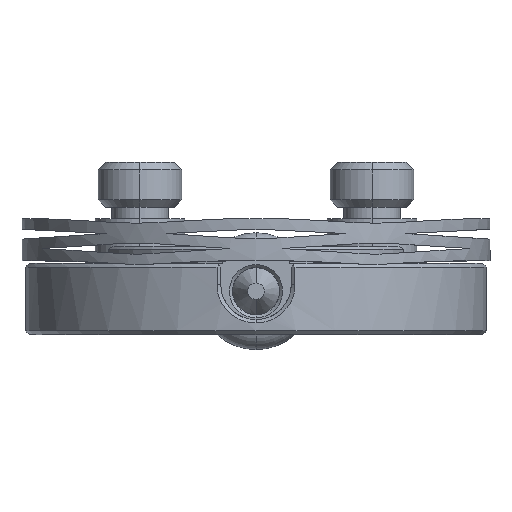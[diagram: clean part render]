
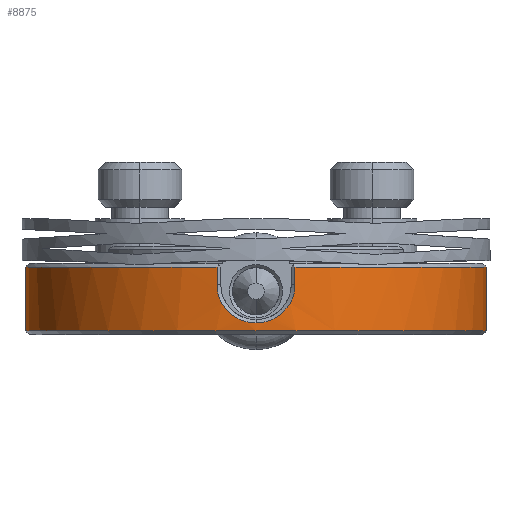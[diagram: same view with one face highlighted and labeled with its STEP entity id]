
A CAD part, front view. The second image highlights one B-rep face of the part: STEP entity #8875.
In plain terms, the highlighted cylindrical face has radius 7.811 mm (diameter 15.621 mm), a partial arc.
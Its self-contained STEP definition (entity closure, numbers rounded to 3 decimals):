
#252 = VECTOR ( 'NONE', #8149, 1000. ) ;
#257 = LINE ( 'NONE', #8141, #252 ) ;
#261 = CIRCLE ( 'NONE', #4143, 7.81 ) ;
#266 = LINE ( 'NONE', #4537, #267 ) ;
#267 = VECTOR ( 'NONE', #4538, 1000. ) ;
#269 = CIRCLE ( 'NONE', #4145, 7.81 ) ;
#473 = LINE ( 'NONE', #5302, #474 ) ;
#474 = VECTOR ( 'NONE', #5303, 1000. ) ;
#478 = VECTOR ( 'NONE', #5333, 1000. ) ;
#485 = LINE ( 'NONE', #5332, #478 ) ;
#583 = FACE_OUTER_BOUND ( 'NONE', #1544, .T. ) ;
#588 = CYLINDRICAL_SURFACE ( 'NONE', #4260, 7.81 ) ;
#1409 = ORIENTED_EDGE ( 'NONE', *, *, #6351, .F. ) ;
#1410 = ORIENTED_EDGE ( 'NONE', *, *, #6120, .T. ) ;
#1411 = ORIENTED_EDGE ( 'NONE', *, *, #6111, .T. ) ;
#1412 = ORIENTED_EDGE ( 'NONE', *, *, #6113, .T. ) ;
#1413 = ORIENTED_EDGE ( 'NONE', *, *, #6117, .T. ) ;
#1414 = ORIENTED_EDGE ( 'NONE', *, *, #6121, .T. ) ;
#1415 = ORIENTED_EDGE ( 'NONE', *, *, #5747, .T. ) ;
#1416 = ORIENTED_EDGE ( 'NONE', *, *, #6341, .T. ) ;
#1417 = ORIENTED_EDGE ( 'NONE', *, *, #6112, .T. ) ;
#1544 = EDGE_LOOP ( 'NONE', ( #1409, #1410, #1411, #1412, #1413, #1414, #1415, #1416, #1417 ) ) ;
#1843 = VERTEX_POINT ( 'NONE', #2283 ) ;
#1844 = VERTEX_POINT ( 'NONE', #2284 ) ;
#1845 = VERTEX_POINT ( 'NONE', #2285 ) ;
#1846 = VERTEX_POINT ( 'NONE', #2286 ) ;
#2192 = VERTEX_POINT ( 'NONE', #3503 ) ;
#2195 = VERTEX_POINT ( 'NONE', #3506 ) ;
#2200 = VERTEX_POINT ( 'NONE', #3511 ) ;
#2210 = VERTEX_POINT ( 'NONE', #3521 ) ;
#2235 = VERTEX_POINT ( 'NONE', #3546 ) ;
#2283 = CARTESIAN_POINT ( 'NONE',  ( 1.323, -7.698, 2.286 ) ) ;
#2284 = CARTESIAN_POINT ( 'NONE',  ( 1.323, -7.698, 1.702 ) ) ;
#2285 = CARTESIAN_POINT ( 'NONE',  ( 0., -7.81, 0.399 ) ) ;
#2286 = CARTESIAN_POINT ( 'NONE',  ( -1.323, -7.698, 1.702 ) ) ;
#2829 = B_SPLINE_CURVE_WITH_KNOTS ( 'NONE', 3,
 ( #8150, #4510, #4511, #4512, #4513, #4514 ),
 .UNSPECIFIED., .F., .F.,
 ( 4, 2, 4 ),
 ( 0., 0.5, 1. ),
 .UNSPECIFIED. ) ;
#2830 = B_SPLINE_CURVE_WITH_KNOTS ( 'NONE', 3,
 ( #4518, #4524, #4525, #4526, #4527, #4528 ),
 .UNSPECIFIED., .F., .F.,
 ( 4, 2, 4 ),
 ( 0., 0.5, 1. ),
 .UNSPECIFIED. ) ;
#3321 = CIRCLE ( 'NONE', #6679, 7.81 ) ;
#3503 = CARTESIAN_POINT ( 'NONE',  ( -7.81, 0., 2.286 ) ) ;
#3506 = CARTESIAN_POINT ( 'NONE',  ( -7.81, 0., 0.127 ) ) ;
#3511 = CARTESIAN_POINT ( 'NONE',  ( -1.323, -7.698, 2.286 ) ) ;
#3521 = CARTESIAN_POINT ( 'NONE',  ( 7.81, 0., 0.127 ) ) ;
#3546 = CARTESIAN_POINT ( 'NONE',  ( 7.81, 0., 2.286 ) ) ;
#4143 = AXIS2_PLACEMENT_3D ( 'NONE', #8148, #7590, #4508 ) ;
#4145 = AXIS2_PLACEMENT_3D ( 'NONE', #4523, #4535, #4536 ) ;
#4260 = AXIS2_PLACEMENT_3D ( 'NONE', #5535, #5534, #5527 ) ;
#4508 = DIRECTION ( 'NONE',  ( -1., 0., 0. ) ) ;
#4510 = CARTESIAN_POINT ( 'NONE',  ( 1.331, -7.696, 1.353 ) ) ;
#4511 = CARTESIAN_POINT ( 'NONE',  ( 1.2, -7.722, 1.045 ) ) ;
#4512 = CARTESIAN_POINT ( 'NONE',  ( 0.665, -7.787, 0.519 ) ) ;
#4513 = CARTESIAN_POINT ( 'NONE',  ( 0.354, -7.81, 0.391 ) ) ;
#4514 = CARTESIAN_POINT ( 'NONE',  ( 0., -7.81, 0.399 ) ) ;
#4518 = CARTESIAN_POINT ( 'NONE',  ( 0., -7.81, 0.399 ) ) ;
#4523 = CARTESIAN_POINT ( 'NONE',  ( 0., 0., 2.286 ) ) ;
#4524 = CARTESIAN_POINT ( 'NONE',  ( -0.355, -7.81, 0.391 ) ) ;
#4525 = CARTESIAN_POINT ( 'NONE',  ( -0.666, -7.787, 0.519 ) ) ;
#4526 = CARTESIAN_POINT ( 'NONE',  ( -1.202, -7.722, 1.047 ) ) ;
#4527 = CARTESIAN_POINT ( 'NONE',  ( -1.331, -7.696, 1.354 ) ) ;
#4528 = CARTESIAN_POINT ( 'NONE',  ( -1.323, -7.698, 1.702 ) ) ;
#4535 = DIRECTION ( 'NONE',  ( 0., 0., -1. ) ) ;
#4536 = DIRECTION ( 'NONE',  ( 1., 0., 0. ) ) ;
#4537 = CARTESIAN_POINT ( 'NONE',  ( -1.323, -7.698, -2.507 ) ) ;
#4538 = DIRECTION ( 'NONE',  ( 0., 0., 1. ) ) ;
#5302 = CARTESIAN_POINT ( 'NONE',  ( -7.81, 0., -2.507 ) ) ;
#5303 = DIRECTION ( 'NONE',  ( 0., 0., -1. ) ) ;
#5332 = CARTESIAN_POINT ( 'NONE',  ( 7.81, 0., -2.507 ) ) ;
#5333 = DIRECTION ( 'NONE',  ( 0., 0., -1. ) ) ;
#5527 = DIRECTION ( 'NONE',  ( -1., 0., 0. ) ) ;
#5534 = DIRECTION ( 'NONE',  ( 0., 0., -1. ) ) ;
#5535 = CARTESIAN_POINT ( 'NONE',  ( 0., 0., -2.507 ) ) ;
#5747 = EDGE_CURVE ( 'NONE', #2200, #2192, #3321, .T. ) ;
#6111 = EDGE_CURVE ( 'NONE', #1843, #1844, #257, .T. ) ;
#6112 = EDGE_CURVE ( 'NONE', #2195, #2210, #261, .T. ) ;
#6113 = EDGE_CURVE ( 'NONE', #1844, #1845, #2829, .T. ) ;
#6117 = EDGE_CURVE ( 'NONE', #1845, #1846, #2830, .T. ) ;
#6120 = EDGE_CURVE ( 'NONE', #2235, #1843, #269, .T. ) ;
#6121 = EDGE_CURVE ( 'NONE', #1846, #2200, #266, .T. ) ;
#6341 = EDGE_CURVE ( 'NONE', #2192, #2195, #473, .T. ) ;
#6351 = EDGE_CURVE ( 'NONE', #2235, #2210, #485, .T. ) ;
#6679 = AXIS2_PLACEMENT_3D ( 'NONE', #7063, #7064, #7065 ) ;
#7063 = CARTESIAN_POINT ( 'NONE',  ( 0., 0., 2.286 ) ) ;
#7064 = DIRECTION ( 'NONE',  ( 0., 0., -1. ) ) ;
#7065 = DIRECTION ( 'NONE',  ( 1., 0., 0. ) ) ;
#7590 = DIRECTION ( 'NONE',  ( 0., 0., 1. ) ) ;
#8141 = CARTESIAN_POINT ( 'NONE',  ( 1.323, -7.698, -2.507 ) ) ;
#8148 = CARTESIAN_POINT ( 'NONE',  ( 0., 0., 0.127 ) ) ;
#8149 = DIRECTION ( 'NONE',  ( 0., 0., -1. ) ) ;
#8150 = CARTESIAN_POINT ( 'NONE',  ( 1.323, -7.698, 1.702 ) ) ;
#8875 = ADVANCED_FACE ( 'NONE', ( #583 ), #588, .T. ) ;
